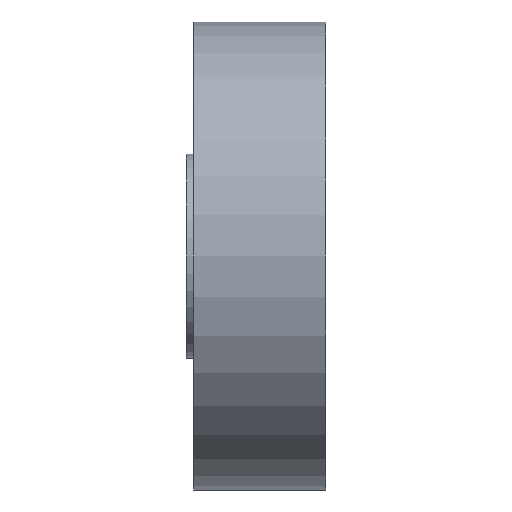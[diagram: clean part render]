
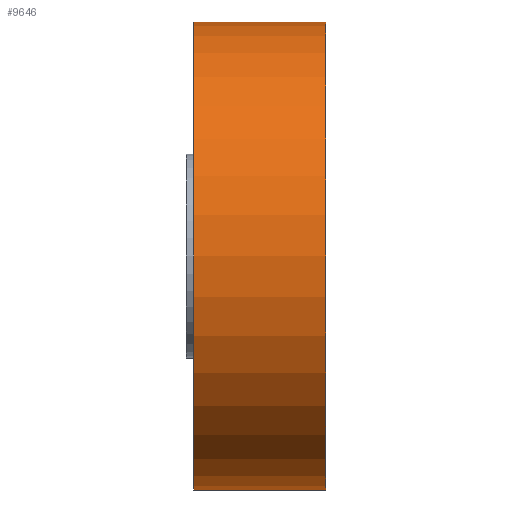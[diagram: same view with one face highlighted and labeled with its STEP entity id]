
A CAD part, left-side view. The second image highlights one B-rep face of the part: STEP entity #9646.
In plain terms, the highlighted cylindrical face has radius 97.5 mm (diameter 195 mm), a partial arc.
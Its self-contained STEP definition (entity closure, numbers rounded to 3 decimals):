
#218 = VECTOR ( 'NONE', #5421, 1000. ) ;
#411 = ORIENTED_EDGE ( 'NONE', *, *, #11481, .T. ) ;
#504 = VECTOR ( 'NONE', #4508, 1000. ) ;
#806 = AXIS2_PLACEMENT_3D ( 'NONE', #8069, #11832, #5041 ) ;
#960 = ORIENTED_EDGE ( 'NONE', *, *, #5504, .F. ) ;
#2330 = ORIENTED_EDGE ( 'NONE', *, *, #5753, .F. ) ;
#2503 = VERTEX_POINT ( 'NONE', #5827 ) ;
#2524 = VERTEX_POINT ( 'NONE', #6119 ) ;
#2679 = CARTESIAN_POINT ( 'NONE',  ( 0., 0., 97.5 ) ) ;
#2722 = EDGE_CURVE ( 'NONE', #2503, #2524, #10007, .T. ) ;
#3136 = DIRECTION ( 'NONE',  ( 0., 0., -1. ) ) ;
#4111 = CARTESIAN_POINT ( 'NONE',  ( 0., 0., 0. ) ) ;
#4170 = DIRECTION ( 'NONE',  ( 0., 0., 1. ) ) ;
#4508 = DIRECTION ( 'NONE',  ( 0., -1., 0. ) ) ;
#4989 = CARTESIAN_POINT ( 'NONE',  ( 0., 55., 0. ) ) ;
#5041 = DIRECTION ( 'NONE',  ( 0., 0., 1. ) ) ;
#5249 = CIRCLE ( 'NONE', #12084, 97.5 ) ;
#5379 = CARTESIAN_POINT ( 'NONE',  ( 0., 55., -97.5 ) ) ;
#5421 = DIRECTION ( 'NONE',  ( 0., -1., 0. ) ) ;
#5492 = CARTESIAN_POINT ( 'NONE',  ( 0., 55., 97.5 ) ) ;
#5504 = EDGE_CURVE ( 'NONE', #10900, #6278, #9238, .T. ) ;
#5524 = EDGE_LOOP ( 'NONE', ( #960, #2330, #5905, #411 ) ) ;
#5753 = EDGE_CURVE ( 'NONE', #2503, #10900, #11400, .T. ) ;
#5827 = CARTESIAN_POINT ( 'NONE',  ( 0., 55., -97.5 ) ) ;
#5905 = ORIENTED_EDGE ( 'NONE', *, *, #2722, .T. ) ;
#6119 = CARTESIAN_POINT ( 'NONE',  ( 0., 0., -97.5 ) ) ;
#6278 = VERTEX_POINT ( 'NONE', #2679 ) ;
#7667 = DIRECTION ( 'NONE',  ( 0., -1., 0. ) ) ;
#7790 = FACE_OUTER_BOUND ( 'NONE', #5524, .T. ) ;
#8069 = CARTESIAN_POINT ( 'NONE',  ( 0., 55., 0. ) ) ;
#8114 = AXIS2_PLACEMENT_3D ( 'NONE', #4989, #7667, #3136 ) ;
#9238 = LINE ( 'NONE', #11031, #218 ) ;
#9646 = ADVANCED_FACE ( 'NONE', ( #7790 ), #9677, .T. ) ;
#9677 = CYLINDRICAL_SURFACE ( 'NONE', #8114, 97.5 ) ;
#10007 = LINE ( 'NONE', #5379, #504 ) ;
#10833 = DIRECTION ( 'NONE',  ( 0., 1., 0. ) ) ;
#10900 = VERTEX_POINT ( 'NONE', #5492 ) ;
#11031 = CARTESIAN_POINT ( 'NONE',  ( 0., 55., 97.5 ) ) ;
#11400 = CIRCLE ( 'NONE', #806, 97.5 ) ;
#11481 = EDGE_CURVE ( 'NONE', #2524, #6278, #5249, .T. ) ;
#11832 = DIRECTION ( 'NONE',  ( 0., 1., 0. ) ) ;
#12084 = AXIS2_PLACEMENT_3D ( 'NONE', #4111, #10833, #4170 ) ;
